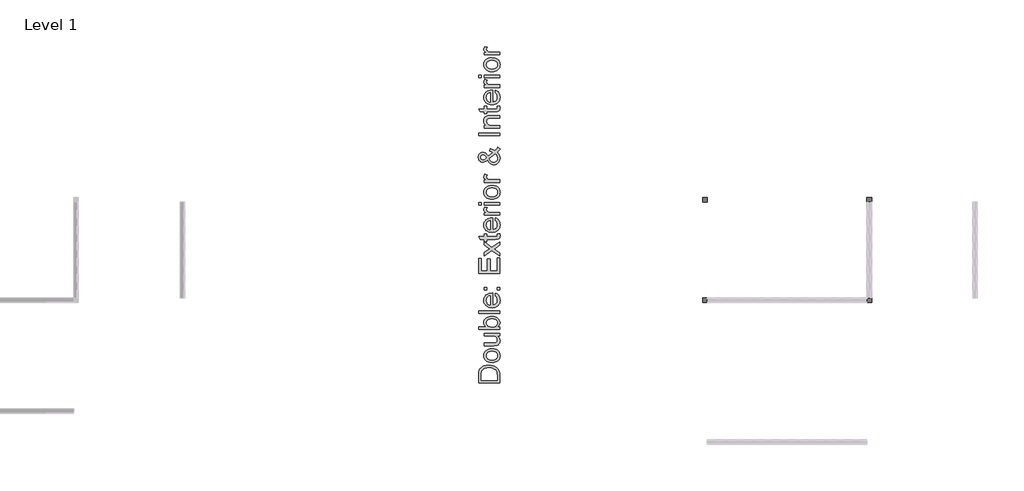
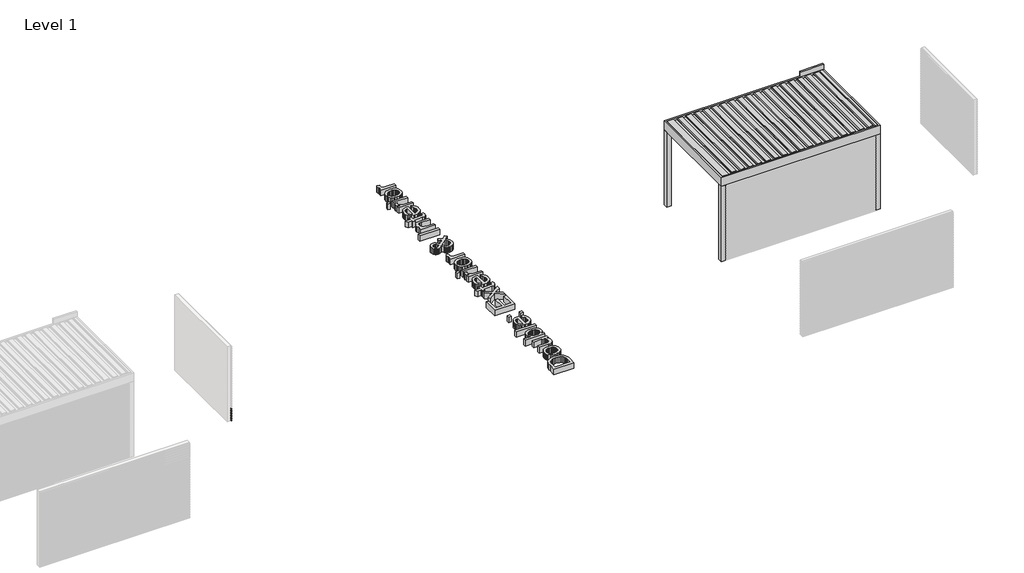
# One storey, part 42 of 47: 35 proxies.
"""IFC4 building model written with IfcOpenShell, lengths in millimetres."""

from ifc_helpers import new_model, si_unit, frame, origin, origin_with_axes, place, context, project, spatial, polyline, outline, extrude, transform, mapped, element, save
from components import generic_models_6c472f40

model = new_model("IFC4")

# Units and contexts
model_context = context("Model", 3, world=origin())
ifc_project = project(units=[si_unit("LENGTHUNIT", "METRE", prefix="MILLI")], contexts=[model_context])

# Site, building, storey
site = spatial("IfcSite", under=ifc_project)
building = spatial("IfcBuilding", under=site)
storey = spatial("IfcBuildingStorey", under=building, Name="Level 1", Elevation=0.0)

# Proxies
placement = place(None, origin())
element("IfcBuildingElementProxy", 1, Name="Wall Sweeps", at=placement, inside=storey, context=model_context, shape_type="SweptSolid", body=[
    extrude(outline(polyline([(309.0, 192892.4238385), (320.0562577, 192873.2738385), (333.0, 192873.2738385), (333.0, 192872.0238385), (319.3345698, 192872.0238385), (308.2782281, 192891.1738385), (296.2216933, 192891.1738385), (295.5, 192892.4238385), (309.0, 192892.4238385)])), frame((0.0, 39632.1593685, 0.0), z_axis=(0.0, 1.0, 0.0), x_axis=(0.0, 0.0, 1.0)), (0.0, 0.0, 1.0), 2280.0),
])
element("IfcBuildingElementProxy", 2, Name="Wall Sweeps", at=placement, inside=storey, context=model_context, shape_type="SweptSolid", body=[
    extrude(outline(polyline([(275.7, 192892.4238385), (286.7562577, 192873.2738385), (299.7, 192873.2738385), (299.7, 192872.0238385), (286.0345698, 192872.0238385), (274.9782281, 192891.1738385), (262.9216933, 192891.1738385), (262.2, 192892.4238385), (275.7, 192892.4238385)])), frame((0.0, 39632.1593685, 0.0), z_axis=(0.0, 1.0, 0.0), x_axis=(0.0, 0.0, 1.0)), (0.0, 0.0, 1.0), 2280.0),
])
element("IfcBuildingElementProxy", 3, Name="Wall Sweeps", at=placement, inside=storey, context=model_context, shape_type="SweptSolid", body=[
    extrude(outline(polyline([(242.4, 192892.4238385), (253.4562577, 192873.2738385), (266.4, 192873.2738385), (266.4, 192872.0238385), (252.7345698, 192872.0238385), (241.6782281, 192891.1738385), (229.6216933, 192891.1738385), (228.9, 192892.4238385), (242.4, 192892.4238385)])), frame((0.0, 39632.1593685, 0.0), z_axis=(0.0, 1.0, 0.0), x_axis=(0.0, 0.0, 1.0)), (0.0, 0.0, 1.0), 2280.0),
])
element("IfcBuildingElementProxy", 4, Name="Wall Sweeps", at=placement, inside=storey, context=model_context, shape_type="SweptSolid", body=[
    extrude(outline(polyline([(209.1, 192892.4238385), (220.1562577, 192873.2738385), (233.1, 192873.2738385), (233.1, 192872.0238385), (219.4345698, 192872.0238385), (208.3782281, 192891.1738385), (196.3216933, 192891.1738385), (195.6, 192892.4238385), (209.1, 192892.4238385)])), frame((0.0, 39632.1593685, 0.0), z_axis=(0.0, 1.0, 0.0), x_axis=(0.0, 0.0, 1.0)), (0.0, 0.0, 1.0), 2280.0),
])
element("IfcBuildingElementProxy", 5, Name="Wall Sweeps", at=placement, inside=storey, context=model_context, shape_type="SweptSolid", body=[
    extrude(outline(polyline([(175.8, 192892.4238385), (186.8562577, 192873.2738385), (199.8, 192873.2738385), (199.8, 192872.0238385), (186.1345698, 192872.0238385), (175.0782281, 192891.1738385), (163.0216933, 192891.1738385), (162.3, 192892.4238385), (175.8, 192892.4238385)])), frame((0.0, 39632.1593685, 0.0), z_axis=(0.0, 1.0, 0.0), x_axis=(0.0, 0.0, 1.0)), (0.0, 0.0, 1.0), 2280.0),
])
element("IfcBuildingElementProxy", 6, Name="Wall Sweeps", at=placement, inside=storey, context=model_context, shape_type="SweptSolid", body=[
    extrude(outline(polyline([(142.5, 192892.4238385), (153.5562577, 192873.2738385), (166.5, 192873.2738385), (166.5, 192872.0238385), (152.8345698, 192872.0238385), (141.7782281, 192891.1738385), (129.7216933, 192891.1738385), (129.0, 192892.4238385), (142.5, 192892.4238385)])), frame((0.0, 39632.1593685, 0.0), z_axis=(0.0, 1.0, 0.0), x_axis=(0.0, 0.0, 1.0)), (0.0, 0.0, 1.0), 2280.0),
])
element("IfcBuildingElementProxy", 7, Name="Wall Sweeps", at=placement, inside=storey, context=model_context, shape_type="SweptSolid", body=[
    extrude(outline(polyline([(109.2, 192892.4238385), (120.2562577, 192873.2738385), (133.2, 192873.2738385), (133.2, 192872.0238385), (119.5345698, 192872.0238385), (108.4782281, 192891.1738385), (96.4216933, 192891.1738385), (95.7, 192892.4238385), (109.2, 192892.4238385)])), frame((0.0, 39632.1593685, 0.0), z_axis=(0.0, 1.0, 0.0), x_axis=(0.0, 0.0, 1.0)), (0.0, 0.0, 1.0), 2280.0),
])
element("IfcBuildingElementProxy", 8, Name="Wall Sweeps", at=placement, inside=storey, context=model_context, shape_type="SweptSolid", body=[
    extrude(outline(polyline([(75.9, 192892.4238385), (86.9562577, 192873.2738385), (99.9, 192873.2738385), (99.9, 192872.0238385), (86.2345698, 192872.0238385), (75.1782281, 192891.1738385), (63.1216933, 192891.1738385), (62.4, 192892.4238385), (75.9, 192892.4238385)])), frame((0.0, 39632.1593685, 0.0), z_axis=(0.0, 1.0, 0.0), x_axis=(0.0, 0.0, 1.0)), (0.0, 0.0, 1.0), 2280.0),
])
element("IfcBuildingElementProxy", 9, Name="Wall Sweeps", at=placement, inside=storey, context=model_context, shape_type="SweptSolid", body=[
    extrude(outline(polyline([(42.6, 192892.4238385), (53.6562577, 192873.2738385), (66.6, 192873.2738385), (66.6, 192872.0238385), (52.9345698, 192872.0238385), (41.8782281, 192891.1738385), (29.8216933, 192891.1738385), (29.1, 192892.4238385), (42.6, 192892.4238385)])), frame((0.0, 39632.1593685, 0.0), z_axis=(0.0, 1.0, 0.0), x_axis=(0.0, 0.0, 1.0)), (0.0, 0.0, 1.0), 2280.0),
])
element("IfcBuildingElementProxy", 10, Name="Wall Sweeps", at=placement, inside=storey, context=model_context, shape_type="SweptSolid", body=[
    extrude(outline(polyline([(9.3, 192892.4238385), (20.3562577, 192873.2738385), (33.3, 192873.2738385), (33.3, 192872.0238385), (19.6345698, 192872.0238385), (8.5782281, 192891.1738385), (-3.4783067, 192891.1738385), (-4.2, 192892.4238385), (9.3, 192892.4238385)])), frame((0.0, 39632.1593685, 0.0), z_axis=(0.0, 1.0, 0.0), x_axis=(0.0, 0.0, 1.0)), (0.0, 0.0, 1.0), 2280.0),
])
element("IfcBuildingElementProxy", 11, Name="Wall Sweeps", at=placement, inside=storey, context=model_context, shape_type="SweptSolid", body=[
    extrude(outline(polyline([(309.3, 209062.4238385), (295.8, 209062.4238385), (296.5216933, 209063.6738385), (308.5782281, 209063.6738385), (319.6345698, 209082.8238385), (333.3, 209082.8238385), (333.3, 209081.5738385), (320.3562577, 209081.5738385), (309.3, 209062.4238385)])), frame((0.0, 39632.1593685, 0.0), z_axis=(0.0, 1.0, 0.0), x_axis=(0.0, 0.0, 1.0)), (0.0, 0.0, 1.0), 2280.0),
])
element("IfcBuildingElementProxy", 12, Name="Wall Sweeps", at=placement, inside=storey, context=model_context, shape_type="SweptSolid", body=[
    extrude(outline(polyline([(741.9, 209172.4238385), (752.9562577, 209153.2738385), (765.9, 209153.2738385), (765.9, 209152.0238385), (752.2345698, 209152.0238385), (741.1782281, 209171.1738385), (729.1216933, 209171.1738385), (728.4, 209172.4238385), (741.9, 209172.4238385)])), frame((0.0, 39632.1593685, 0.0), z_axis=(0.0, 1.0, 0.0), x_axis=(0.0, 0.0, 1.0)), (0.0, 0.0, 1.0), 2280.0),
])
element("IfcBuildingElementProxy", 13, Name="Wall Sweeps", at=placement, inside=storey, context=model_context, shape_type="SweptSolid", body=[
    extrude(outline(polyline([(808.5, 209172.4238385), (819.5562577, 209153.2738385), (832.5, 209153.2738385), (832.5, 209152.0238385), (818.8345698, 209152.0238385), (807.7782281, 209171.1738385), (795.7216933, 209171.1738385), (795.0, 209172.4238385), (808.5, 209172.4238385)])), frame((0.0, 39632.1593685, 0.0), z_axis=(0.0, 1.0, 0.0), x_axis=(0.0, 0.0, 1.0)), (0.0, 0.0, 1.0), 2280.0),
])
element("IfcBuildingElementProxy", 14, Name="Wall Sweeps", at=placement, inside=storey, context=model_context, shape_type="SweptSolid", body=[
    extrude(outline(polyline([(875.1, 209172.4238385), (886.1562577, 209153.2738385), (899.1, 209153.2738385), (899.1, 209152.0238385), (885.4345698, 209152.0238385), (874.3782281, 209171.1738385), (862.3216933, 209171.1738385), (861.6, 209172.4238385), (875.1, 209172.4238385)])), frame((0.0, 39632.1593685, 0.0), z_axis=(0.0, 1.0, 0.0), x_axis=(0.0, 0.0, 1.0)), (0.0, 0.0, 1.0), 2280.0),
])
element("IfcBuildingElementProxy", 15, Name="Wall Sweeps", at=placement, inside=storey, context=model_context, shape_type="SweptSolid", body=[
    extrude(outline(polyline([(1075.9, 209062.4238385), (1062.4, 209062.4238385), (1063.1216933, 209063.6738385), (1075.1782281, 209063.6738385), (1086.2345698, 209082.8238385), (1099.9, 209082.8238385), (1099.9, 209081.5738385), (1086.9562577, 209081.5738385), (1075.9, 209062.4238385)])), frame((0.0, 39632.1593685, 0.0), z_axis=(0.0, 1.0, 0.0), x_axis=(0.0, 0.0, 1.0)), (0.0, 0.0, 1.0), 2280.0),
])
element("IfcBuildingElementProxy", 16, Name="Wall Sweeps", at=placement, inside=storey, context=model_context, shape_type="SweptSolid", body=[
    extrude(outline(polyline([(1409.2, 209062.4238385), (1395.7, 209062.4238385), (1396.4216933, 209063.6738385), (1408.4782281, 209063.6738385), (1419.5345698, 209082.8238385), (1433.2, 209082.8238385), (1433.2, 209081.5738385), (1420.2562577, 209081.5738385), (1409.2, 209062.4238385)])), frame((0.0, 39632.1593685, 0.0), z_axis=(0.0, 1.0, 0.0), x_axis=(0.0, 0.0, 1.0)), (0.0, 0.0, 1.0), 2280.0),
])
element("IfcBuildingElementProxy", 17, Name="Wall Sweeps", at=placement, inside=storey, context=model_context, shape_type="SweptSolid", body=[
    extrude(outline(polyline([(1641.0, 209172.4238385), (1652.0562577, 209153.2738385), (1665.0, 209153.2738385), (1665.0, 209152.0238385), (1651.3345698, 209152.0238385), (1640.2782281, 209171.1738385), (1628.2216933, 209171.1738385), (1627.5, 209172.4238385), (1641.0, 209172.4238385)])), frame((0.0, 39632.1593685, 0.0), z_axis=(0.0, 1.0, 0.0), x_axis=(0.0, 0.0, 1.0)), (0.0, 0.0, 1.0), 2280.0),
])
element("IfcBuildingElementProxy", 18, Name="Wall Sweeps", at=placement, inside=storey, context=model_context, shape_type="SweptSolid", body=[
    extrude(outline(polyline([(142.5, 209172.4238385), (153.5562577, 209153.2738385), (166.5, 209153.2738385), (166.5, 209152.0238385), (152.8345698, 209152.0238385), (141.7782281, 209171.1738385), (129.7216933, 209171.1738385), (129.0, 209172.4238385), (142.5, 209172.4238385)])), frame((0.0, 39632.1593685, 0.0), z_axis=(0.0, 1.0, 0.0), x_axis=(0.0, 0.0, 1.0)), (0.0, 0.0, 1.0), 2280.0),
])
element("IfcBuildingElementProxy", 19, Name="Wall Sweeps", at=placement, inside=storey, context=model_context, shape_type="SweptSolid", body=[
    extrude(outline(polyline([(1641.0, 209062.4238385), (1627.5, 209062.4238385), (1628.2216933, 209063.6738385), (1640.2782281, 209063.6738385), (1651.3345698, 209082.8238385), (1665.0, 209082.8238385), (1665.0, 209081.5738385), (1652.0562577, 209081.5738385), (1641.0, 209062.4238385)])), frame((0.0, 39632.1593685, 0.0), z_axis=(0.0, 1.0, 0.0), x_axis=(0.0, 0.0, 1.0)), (0.0, 0.0, 1.0), 2280.0),
])
element("IfcBuildingElementProxy", 20, Name="Wall Sweeps", at=placement, inside=storey, context=model_context, shape_type="SweptSolid", body=[
    extrude(outline(polyline([(1707.6, 209172.4238385), (1718.6562577, 209153.2738385), (1731.6, 209153.2738385), (1731.6, 209152.0238385), (1717.9345698, 209152.0238385), (1706.8782281, 209171.1738385), (1694.8216933, 209171.1738385), (1694.1, 209172.4238385), (1707.6, 209172.4238385)])), frame((0.0, 39632.1593685, 0.0), z_axis=(0.0, 1.0, 0.0), x_axis=(0.0, 0.0, 1.0)), (0.0, 0.0, 1.0), 2280.0),
])
element("IfcBuildingElementProxy", 21, Name="Wall Sweeps", at=placement, inside=storey, context=model_context, shape_type="SweptSolid", body=[
    extrude(outline(polyline([(209.3, 209062.4238385), (195.8, 209062.4238385), (196.5216933, 209063.6738385), (208.5782281, 209063.6738385), (219.6345698, 209082.8238385), (233.3, 209082.8238385), (233.3, 209081.5738385), (220.3562577, 209081.5738385), (209.3, 209062.4238385)])), frame((0.0, 39632.1593685, 0.0), z_axis=(0.0, 1.0, 0.0), x_axis=(0.0, 0.0, 1.0)), (0.0, 0.0, 1.0), 2280.0),
])
element("IfcBuildingElementProxy", 22, Name="Wall Sweeps", at=placement, inside=storey, context=model_context, shape_type="SweptSolid", body=[
    extrude(outline(polyline([(309.0, 209172.4238385), (320.0562577, 209153.2738385), (333.0, 209153.2738385), (333.0, 209152.0238385), (319.3345698, 209152.0238385), (308.2782281, 209171.1738385), (296.2216933, 209171.1738385), (295.5, 209172.4238385), (309.0, 209172.4238385)])), frame((0.0, 39632.1593685, 0.0), z_axis=(0.0, 1.0, 0.0), x_axis=(0.0, 0.0, 1.0)), (0.0, 0.0, 1.0), 2280.0),
])
element("IfcBuildingElementProxy", 23, Name="Wall Sweeps", at=placement, inside=storey, context=model_context, shape_type="SweptSolid", body=[
    extrude(outline(polyline([(9.3, 209172.4238385), (20.3562577, 209153.2738385), (33.3, 209153.2738385), (33.3, 209152.0238385), (19.6345698, 209152.0238385), (8.5782281, 209171.1738385), (-3.4783067, 209171.1738385), (-4.2, 209172.4238385), (9.3, 209172.4238385)])), frame((0.0, 39632.1593685, 0.0), z_axis=(0.0, 1.0, 0.0), x_axis=(0.0, 0.0, 1.0)), (0.0, 0.0, 1.0), 2280.0),
])
element("IfcBuildingElementProxy", 24, Name="Wall Sweeps", at=placement, inside=storey, context=model_context, shape_type="SweptSolid", body=[
    extrude(outline(polyline([(9.3, 209062.4238385), (-4.2, 209062.4238385), (-3.4783067, 209063.6738385), (8.5782281, 209063.6738385), (19.6345698, 209082.8238385), (33.3, 209082.8238385), (33.3, 209081.5738385), (20.3562577, 209081.5738385), (9.3, 209062.4238385)])), frame((0.0, 39632.1593685, 0.0), z_axis=(0.0, 1.0, 0.0), x_axis=(0.0, 0.0, 1.0)), (0.0, 0.0, 1.0), 2280.0),
])
element("IfcBuildingElementProxy", 25, Name="Wall Sweeps", at=placement, inside=storey, context=model_context, shape_type="SweptSolid", body=[
    extrude(outline(polyline([(342.3, 209172.4238385), (353.3562577, 209153.2738385), (366.3, 209153.2738385), (366.3, 209152.0238385), (352.6345698, 209152.0238385), (341.5782281, 209171.1738385), (329.5216933, 209171.1738385), (328.8, 209172.4238385), (342.3, 209172.4238385)])), frame((0.0, 39632.1593685, 0.0), z_axis=(0.0, 1.0, 0.0), x_axis=(0.0, 0.0, 1.0)), (0.0, 0.0, 1.0), 2280.0),
])
element("IfcBuildingElementProxy", 26, Name="Wall Sweeps", at=placement, inside=storey, context=model_context, shape_type="SweptSolid", body=[
    extrude(outline(polyline([(342.6, 209062.4238385), (329.1, 209062.4238385), (329.8216933, 209063.6738385), (341.8782281, 209063.6738385), (352.9345698, 209082.8238385), (366.6, 209082.8238385), (366.6, 209081.5738385), (353.6562577, 209081.5738385), (342.6, 209062.4238385)])), frame((0.0, 39632.1593685, 0.0), z_axis=(0.0, 1.0, 0.0), x_axis=(0.0, 0.0, 1.0)), (0.0, 0.0, 1.0), 2280.0),
])
element("IfcBuildingElementProxy", 27, Name="Wall Sweeps", at=placement, inside=storey, context=model_context, shape_type="SweptSolid", body=[
    extrude(outline(polyline([(375.6, 209172.4238385), (386.6562577, 209153.2738385), (399.6, 209153.2738385), (399.6, 209152.0238385), (385.9345698, 209152.0238385), (374.8782281, 209171.1738385), (362.8216933, 209171.1738385), (362.1, 209172.4238385), (375.6, 209172.4238385)])), frame((0.0, 39632.1593685, 0.0), z_axis=(0.0, 1.0, 0.0), x_axis=(0.0, 0.0, 1.0)), (0.0, 0.0, 1.0), 2280.0),
])
element("IfcBuildingElementProxy", 28, Name="Wall Sweeps", at=placement, inside=storey, context=model_context, shape_type="SweptSolid", body=[
    extrude(outline(polyline([(376.0, 209062.4238385), (362.5, 209062.4238385), (363.2216933, 209063.6738385), (375.2782281, 209063.6738385), (386.3345698, 209082.8238385), (400.0, 209082.8238385), (400.0, 209081.5738385), (387.0562577, 209081.5738385), (376.0, 209062.4238385)])), frame((0.0, 39632.1593685, 0.0), z_axis=(0.0, 1.0, 0.0), x_axis=(0.0, 0.0, 1.0)), (0.0, 0.0, 1.0), 2280.0),
])
element("IfcBuildingElementProxy", 29, Name="Wall Sweeps", at=placement, inside=storey, context=model_context, shape_type="SweptSolid", body=[
    extrude(outline(polyline([(408.9, 209172.4238385), (419.9562577, 209153.2738385), (432.9, 209153.2738385), (432.9, 209152.0238385), (419.2345698, 209152.0238385), (408.1782281, 209171.1738385), (396.1216933, 209171.1738385), (395.4, 209172.4238385), (408.9, 209172.4238385)])), frame((0.0, 39632.1593685, 0.0), z_axis=(0.0, 1.0, 0.0), x_axis=(0.0, 0.0, 1.0)), (0.0, 0.0, 1.0), 2280.0),
])
element("IfcBuildingElementProxy", 30, Name="Wall Sweeps", at=placement, inside=storey, context=model_context, shape_type="SweptSolid", body=[
    extrude(outline(polyline([(409.3, 209062.4238385), (395.8, 209062.4238385), (396.5216933, 209063.6738385), (408.5782281, 209063.6738385), (419.6345698, 209082.8238385), (433.3, 209082.8238385), (433.3, 209081.5738385), (420.3562577, 209081.5738385), (409.3, 209062.4238385)])), frame((0.0, 39632.1593685, 0.0), z_axis=(0.0, 1.0, 0.0), x_axis=(0.0, 0.0, 1.0)), (0.0, 0.0, 1.0), 2280.0),
])
element("IfcBuildingElementProxy", 31, Name="Wall Sweeps", at=placement, inside=storey, context=model_context, shape_type="SweptSolid", body=[
    extrude(outline(polyline([(442.2, 209172.4238385), (453.2562577, 209153.2738385), (466.2, 209153.2738385), (466.2, 209152.0238385), (452.5345698, 209152.0238385), (441.4782281, 209171.1738385), (429.4216933, 209171.1738385), (428.7, 209172.4238385), (442.2, 209172.4238385)])), frame((0.0, 39632.1593685, 0.0), z_axis=(0.0, 1.0, 0.0), x_axis=(0.0, 0.0, 1.0)), (0.0, 0.0, 1.0), 2280.0),
])
element("IfcBuildingElementProxy", 32, Name="Wall Sweeps", at=placement, inside=storey, context=model_context, shape_type="SweptSolid", body=[
    extrude(outline(polyline([(442.6, 209062.4238385), (429.1, 209062.4238385), (429.8216933, 209063.6738385), (441.8782281, 209063.6738385), (452.9345698, 209082.8238385), (466.6, 209082.8238385), (466.6, 209081.5738385), (453.6562577, 209081.5738385), (442.6, 209062.4238385)])), frame((0.0, 39632.1593685, 0.0), z_axis=(0.0, 1.0, 0.0), x_axis=(0.0, 0.0, 1.0)), (0.0, 0.0, 1.0), 2280.0),
])
element("IfcBuildingElementProxy", 33, Name="Wall Sweeps", at=placement, inside=storey, context=model_context, shape_type="SweptSolid", body=[
    extrude(outline(polyline([(475.5, 209172.4238385), (486.5562577, 209153.2738385), (499.5, 209153.2738385), (499.5, 209152.0238385), (485.8345698, 209152.0238385), (474.7782281, 209171.1738385), (462.7216933, 209171.1738385), (462.0, 209172.4238385), (475.5, 209172.4238385)])), frame((0.0, 39632.1593685, 0.0), z_axis=(0.0, 1.0, 0.0), x_axis=(0.0, 0.0, 1.0)), (0.0, 0.0, 1.0), 2280.0),
])
generic_models_shape = generic_models_6c472f40(model_context)
element("IfcBuildingElementProxy", 34, Name="Renson_Algarve_Single : Algarve - Single", ObjectType="Renson_Algarve_Single : Algarve - Single", at=placement, inside=storey, context=model_context, shape_type="MappedRepresentation", body=[
    mapped(generic_models_shape, transform((207172.4238385, 40772.1593685, 0.0), x_axis=(1.0, 0.0, 0.0), y_axis=(0.0, 1.0, 0.0), z_axis=(0.0, 0.0, 1.0))),
])
element("IfcBuildingElementProxy", 35, Name="500mm Arial", ObjectType="500mm Arial", at=placement, inside=storey, context=model_context, shape_type="SweptSolid", body=[
    extrude(outline(polyline([(200356.6435082, 37620.2365292), (199854.3619574, 37620.2365292), (199854.3619574, 37793.5089489), (199856.1707106, 37845.2883397), (199861.59697, 37883.1495284), (199875.545829, 37923.1873522), (199897.5267782, 37956.9711821), (199915.4916823, 37975.5875439), (199935.7865057, 37991.7053738), (199958.4112484, 38005.3246718), (199983.3659104, 38016.445438), (200039.3452873, 38031.2526883), (200102.8049315, 38036.1884384), (200156.7149722, 38032.8468436), (200204.1564212, 38022.8220592), (200244.5467986, 38007.5549564), (200277.3036245, 37988.4864064), (200303.1626631, 37966.536114), (200322.8596783, 37942.6237843), (200337.4676592, 37915.1705904), (200348.059595, 37882.5977054), (200354.4975299, 37844.8438157), (200356.6435082, 37801.8476075), (200356.6435082, 37620.2365292)]), holes=[polyline([(200293.8583143, 37683.021723), (200293.8583143, 37794.1220856), (200291.5897087, 37840.0766781), (200284.7838918, 37874.9334972), (200273.8394024, 37901.2370598), (200259.1547795, 37921.5318832), (200231.9774971, 37943.3442199), (200196.7987813, 37959.7302971), (200153.4653479, 37969.9850077), (200101.8239128, 37973.4032446), (200065.3729385, 37971.7286151), (200033.3978617, 37966.7047266), (200005.8986826, 37958.3315791), (199982.8754011, 37946.6091726), (199963.806851, 37932.4878689), (199948.1718662, 37916.9180299), (199935.9704467, 37899.8996555), (199927.2025925, 37881.4327458), (199919.6610116, 37845.3189966), (199917.1471513, 37792.4053029), (199917.1471513, 37683.021723), (200293.8583143, 37683.021723)])]), origin_with_axes(), (0.0, 0.0, 1.0), 150.0),
    extrude(outline(polyline([(200172.2120013, 38098.9736322), (200124.4409913, 38102.3688765), (200083.2765289, 38112.5546092), (200048.718614, 38129.5308305), (200020.7672466, 38153.2975402), (200002.9019772, 38177.2251983), (199990.1410705, 38203.6360599), (199982.4845265, 38232.5301249), (199979.9323451, 38263.9073934), (199983.0401816, 38298.5457825), (199992.3636909, 38329.8655695), (200007.9028731, 38357.8667542), (200029.6577281, 38382.5493369), (200056.8924921, 38402.6947082), (200088.8714009, 38417.0842592), (200125.5944547, 38425.7179897), (200167.0616533, 38428.5958999), (200230.4906407, 38423.5068657), (200256.525956, 38417.1455728), (200278.7751525, 38408.2397629), (200297.9931547, 38396.9005668), (200314.934887, 38383.2391156), (200329.6003494, 38367.2554093), (200341.989542, 38348.949448), (200358.8661286, 38308.2218454), (200364.4916574, 38263.9073934), (200361.3953173, 38228.7631666), (200352.1062969, 38197.1521397), (200336.6245963, 38169.0743128), (200314.9502154, 38144.529686), (200287.4510362, 38124.5989125), (200254.4949408, 38110.3626457), (200216.0819292, 38101.8208856), (200172.2120013, 38098.9736322)]), holes=[polyline([(200172.0893739, 38161.7588261), (200202.5431053, 38163.5752434), (200228.9118138, 38169.0244955), (200251.1954992, 38178.1065822), (200269.3941617, 38190.8215037), (200283.5307937, 38206.2878759), (200293.6283881, 38223.6243149), (200299.6869447, 38242.8308208), (200301.7064636, 38263.9073934), (200299.6754484, 38284.8766671), (200293.5824028, 38304.0065309), (200283.4273269, 38321.2969847), (200269.2102207, 38336.7480285), (200250.8314493, 38349.4629499), (200228.1913782, 38358.5450367), (200201.2900073, 38363.9942887), (200170.1273366, 38365.8107061), (200140.6392954, 38363.9827924), (200114.9603658, 38358.4990514), (200093.0905476, 38349.3594831), (200075.0298409, 38336.5640875), (200060.8932088, 38321.0555621), (200050.7956144, 38303.7766046), (200044.7370578, 38284.7272151), (200042.717539, 38263.9073934), (200044.7293936, 38242.8308208), (200050.7649576, 38223.6243149), (200060.8242309, 38206.2878759), (200074.9072135, 38190.8215037), (200093.0522265, 38178.1065822), (200115.2975909, 38169.0244955), (200141.6433067, 38163.5752434), (200172.0893739, 38161.7588261)])]), origin_with_axes(), (0.0, 0.0, 1.0), 150.0),
    extrude(outline(polyline([(200356.6435082, 38734.6737199), (200293.2451777, 38734.6737199), (200324.4155126, 38711.9570067), (200346.6800375, 38685.5001599), (200360.0387524, 38655.3031794), (200364.4916574, 38621.3660654), (200361.3646604, 38590.7858745), (200351.9836696, 38562.3210052), (200337.8815264, 38538.4393323), (200320.5910726, 38521.608731), (200299.5911421, 38510.2810313), (200274.3605686, 38502.9080629), (200215.9899587, 38499.229243), (199987.7804943, 38499.229243), (199987.7804943, 38562.0144368), (200186.4367717, 38562.0144368), (200250.4482389, 38565.8158841), (200271.800723, 38574.9669488), (200288.0335161, 38590.6479188), (200298.2882267, 38611.8164619), (200301.7064636, 38637.4302458), (200298.2115846, 38664.5155577), (200287.7269477, 38689.8534302), (200271.2182432, 38710.7460618), (200249.6511612, 38724.4956514), (200220.1133027, 38732.1292028), (200179.6922685, 38734.6737199), (199987.7804943, 38734.6737199), (199987.7804943, 38797.4589138), (200356.6435082, 38797.4589138), (200356.6435082, 38734.6737199)])), origin_with_axes(), (0.0, 0.0, 1.0), 150.0),
    extrude(outline(polyline([(200356.6435082, 38946.5737491), (200356.6435082, 38883.7885553), (199854.3619574, 38883.7885553), (199854.3619574, 38946.5737491), (200040.6328743, 38946.5737491), (200014.0763928, 38967.2211261), (199995.1074774, 38990.5356476), (199983.7261282, 39016.5173135), (199979.9323451, 39045.1661238), (199983.350582, 39077.5090826), (199993.6052926, 39108.073945), (200010.0526835, 39135.1132717), (200032.0489611, 39156.879623), (200059.3795277, 39173.9401506), (200091.8297853, 39186.8620056), (200128.0508334, 39195.0013948), (200166.6937713, 39197.7145245), (200211.2841348, 39194.9055922), (200250.5095526, 39186.4787952), (200284.3700245, 39172.4341336), (200312.8655507, 39152.7716074), (200335.4519724, 39129.1696782), (200351.5851307, 39103.3068075), (200361.2650257, 39075.1829954), (200364.4916574, 39044.7982418), (200360.3299923, 39015.2067339), (200347.8449971, 38988.9721491), (200327.0366718, 38966.0944875), (200297.9050163, 38946.5737491), (200356.6435082, 38946.5737491)]), holes=[polyline([(200169.6368273, 38946.5737491), (200221.9986979, 38950.8657057), (200241.8336688, 38956.2306515), (200257.4379968, 38963.7415756), (200276.805451, 38978.9550289), (200290.6393469, 38996.6363573), (200298.9396844, 39016.7855608), (200301.7064636, 39039.4026392), (200299.6677842, 39058.1799494), (200293.551746, 39075.6390158), (200283.3583491, 39091.7798383), (200269.0875933, 39106.602417), (200250.7777999, 39118.9954417), (200228.4672897, 39127.8476023), (200202.1560628, 39133.1588986), (200171.8441193, 39134.9293307), (200140.9573601, 39133.2317085), (200114.3932144, 39128.1388422), (200092.1516821, 39119.6507315), (200074.2327632, 39107.7673767), (200060.4448526, 39093.4774604), (200050.596345, 39077.7696657), (200044.6872405, 39060.6439924), (200042.717539, 39042.1004405), (200044.7562183, 39023.3231304), (200050.8722565, 39005.864064), (200061.0656535, 38989.7232415), (200075.3364092, 38974.9006628), (200093.4622617, 38962.507638), (200115.2209488, 38953.6554775), (200140.6124707, 38948.3441812), (200169.6368273, 38946.5737491)])]), origin_with_axes(), (0.0, 0.0, 1.0), 150.0),
    extrude(outline(polyline([(200356.6435082, 39268.3478676), (199854.3619574, 39268.3478676), (199854.3619574, 39331.1330614), (200356.6435082, 39331.1330614), (200356.6435082, 39268.3478676)])), origin_with_axes(), (0.0, 0.0, 1.0), 150.0),
    extrude(outline(polyline([(200246.7694189, 39683.5640128), (200254.6175682, 39745.1229333), (200279.2733261, 39735.6844609), (200301.0013564, 39722.9427147), (200319.8016592, 39706.8976948), (200335.6742344, 39687.5494011), (200348.281857, 39665.0971031), (200357.2873017, 39639.7400701), (200362.6905685, 39611.4783023), (200364.4916574, 39580.3117995), (200361.383821, 39541.354629), (200352.0603117, 39506.64343), (200336.5211295, 39476.1782022), (200314.7662744, 39449.9589459), (200287.4012189, 39428.874709), (200255.0314354, 39413.8145398), (200217.656924, 39404.7784383), (200175.2776846, 39401.7664045), (200131.4614061, 39404.8090952), (200092.8414608, 39413.9371672), (200059.4178487, 39429.1506205), (200031.1905698, 39450.4494552), (200008.7650965, 39476.5997337), (199992.7469013, 39506.3675185), (199983.1359842, 39539.7528095), (199979.9323451, 39576.7556069), (199983.1283199, 39612.5666198), (199992.7162444, 39644.9517317), (200008.6961186, 39673.9109425), (200031.0679424, 39699.4442523), (200059.2339077, 39720.2870665), (200092.5962061, 39735.174791), (200131.1548378, 39744.1074257), (200174.9098026, 39747.0849706), (200191.8323743, 39746.7170886), (200191.8323743, 39464.5515983), (200216.886671, 39468.1882651), (200238.8292992, 39475.4194456), (200257.6602588, 39486.2451397), (200273.3795499, 39500.6653475), (200285.7725746, 39517.8829913), (200294.6247352, 39537.1009935), (200299.9360315, 39558.319354), (200301.7064636, 39581.5380728), (200298.4261824, 39614.9540207), (200288.5853391, 39643.0969933), (200271.5707968, 39665.9669907), (200246.7694189, 39683.5640128)]), holes=[polyline([(200129.0471805, 39464.5515983), (200129.0471805, 39684.2997768), (200095.8764873, 39675.8078341), (200072.1480986, 39659.1611738), (200059.2722287, 39642.0393326), (200050.0751789, 39622.5569153), (200044.5569489, 39600.7139218), (200042.717539, 39576.5103522), (200048.5883225, 39534.1885943), (200055.9268018, 39515.7753341), (200066.200673, 39499.1938196), (200078.934755, 39485.2794495), (200093.6538669, 39474.8676226), (200110.3580087, 39467.9583389), (200129.0471805, 39464.5515983)])]), origin_with_axes(), (0.0, 0.0, 1.0), 150.0),
    extrude(outline(polyline([(200050.5656882, 39825.5664629), (199987.7804943, 39825.5664629), (199987.7804943, 39888.3516568), (200050.5656882, 39888.3516568), (200050.5656882, 39825.5664629)])), origin_with_axes(), (0.0, 0.0, 1.0), 150.0),
    extrude(outline(polyline([(200356.6435082, 39825.5664629), (200293.8583143, 39825.5664629), (200293.8583143, 39888.3516568), (200356.6435082, 39888.3516568), (200356.6435082, 39825.5664629)])), origin_with_axes(), (0.0, 0.0, 1.0), 150.0),
    extrude(outline(polyline([(200356.6435082, 40210.1257752), (199854.3619574, 40210.1257752), (199854.3619574, 40571.1406398), (199917.1471513, 40571.1406398), (199917.1471513, 40272.9109691), (200066.2619866, 40272.9109691), (200066.2619866, 40555.4443414), (200129.0471805, 40555.4443414), (200129.0471805, 40272.9109691), (200293.8583143, 40272.9109691), (200293.8583143, 40578.9887891), (200356.6435082, 40578.9887891), (200356.6435082, 40210.1257752)])), origin_with_axes(), (0.0, 0.0, 1.0), 150.0),
    extrude(outline(polyline([(200356.6435082, 40626.0776844), (200171.2309826, 40760.2319854), (199987.7804943, 40633.9258337), (199987.7804943, 40709.46427), (200076.0721732, 40770.4100539), (200117.765466, 40798.8595948), (200083.6750678, 40823.5076885), (199987.7804943, 40892.9147583), (199987.7804943, 40968.4531946), (200171.2309826, 40835.7704217), (200356.6435082, 40963.5481014), (200356.6435082, 40888.009665), (200245.1752636, 40811.122328), (200224.8191266, 40797.0201849), (200356.6435082, 40701.6161208), (200356.6435082, 40626.0776844)])), origin_with_axes(), (0.0, 0.0, 1.0), 150.0),
    extrude(outline(polyline([(200304.2816375, 41151.9036829), (200358.4829182, 41159.7518321), (200364.4916574, 41112.7855641), (200361.8858266, 41082.6498973), (200354.0683342, 41060.1784388), (200342.0201989, 41044.2981993), (200326.7224392, 41033.9361898), (200300.4495334, 41028.2340188), (200255.4759595, 41026.3332952), (200050.5656882, 41026.3332952), (200050.5656882, 40979.2443998), (199987.7804943, 40979.2443998), (199987.7804943, 41026.3332952), (199898.1399149, 41026.3332952), (199861.229088, 41089.118489), (199987.7804943, 41089.118489), (199987.7804943, 41151.9036829), (200050.5656882, 41151.9036829), (200050.5656882, 41089.118489), (200253.6365495, 41089.118489), (200286.0101651, 41092.429427), (200297.4758206, 41103.1593185), (200301.7064636, 41124.5577879), (200304.2816375, 41151.9036829)])), origin_with_axes(), (0.0, 0.0, 1.0), 150.0),
    extrude(outline(polyline([(200246.7694189, 41472.9420373), (200254.6175682, 41534.5009579), (200279.2733261, 41525.0624854), (200301.0013564, 41512.3207392), (200319.8016592, 41496.2757193), (200335.6742344, 41476.9274256), (200348.281857, 41454.4751276), (200357.2873017, 41429.1180947), (200362.6905685, 41400.8563268), (200364.4916574, 41369.689824), (200361.383821, 41330.7326536), (200352.0603117, 41296.0214545), (200336.5211295, 41265.5562268), (200314.7662744, 41239.3369704), (200287.4012189, 41218.2527336), (200255.0314354, 41203.1925644), (200217.656924, 41194.1564629), (200175.2776846, 41191.144429), (200131.4614061, 41194.1871197), (200092.8414608, 41203.3151917), (200059.4178487, 41218.5286451), (200031.1905698, 41239.8274797), (200008.7650965, 41265.9777582), (199992.7469013, 41295.745543), (199983.1359842, 41329.1308341), (199979.9323451, 41366.1336314), (199983.1283199, 41401.9446444), (199992.7162444, 41434.3297563), (200008.6961186, 41463.2889671), (200031.0679424, 41488.8222768), (200059.2339077, 41509.6650911), (200092.5962061, 41524.5528156), (200131.1548378, 41533.4854503), (200174.9098026, 41536.4629952), (200191.8323743, 41536.0951132), (200191.8323743, 41253.9296229), (200216.886671, 41257.5662897), (200238.8292992, 41264.7974702), (200257.6602588, 41275.6231643), (200273.3795499, 41290.0433721), (200285.7725746, 41307.2610159), (200294.6247352, 41326.479018), (200299.9360315, 41347.6973785), (200301.7064636, 41370.9160973), (200298.4261824, 41404.3320452), (200288.5853391, 41432.4750179), (200271.5707968, 41455.3450152), (200246.7694189, 41472.9420373)]), holes=[polyline([(200129.0471805, 41253.9296229), (200129.0471805, 41473.6778013), (200095.8764873, 41465.1858586), (200072.1480986, 41448.5391983), (200059.2722287, 41431.4173571), (200050.0751789, 41411.9349398), (200044.5569489, 41390.0919463), (200042.717539, 41365.8883767), (200048.5883225, 41323.5666189), (200055.9268018, 41305.1533586), (200066.200673, 41288.5718441), (200078.934755, 41274.657474), (200093.6538669, 41264.2456472), (200110.3580087, 41257.3363634), (200129.0471805, 41253.9296229)])]), origin_with_axes(), (0.0, 0.0, 1.0), 150.0),
    extrude(outline(polyline([(200356.6435082, 41599.248189), (199987.7804943, 41599.248189), (199987.7804943, 41654.1852336), (200042.349657, 41654.1852336), (200010.7118054, 41674.480057), (199992.072451, 41693.1807251), (199982.9673716, 41711.9427069), (199979.9323451, 41732.4214713), (199984.7761247, 41763.6914409), (199999.3074635, 41795.4519198), (200055.5934088, 41774.4826461), (200045.9365064, 41752.4097263), (200042.717539, 41730.3368066), (200045.8138791, 41711.5901533), (200055.1028995, 41694.8361941), (200069.8794929, 41681.3012024), (200089.4385523, 41672.2114514), (200124.5099692, 41664.5779), (200162.7696967, 41662.0333829), (200356.6435082, 41662.0333829), (200356.6435082, 41599.248189)])), origin_with_axes(), (0.0, 0.0, 1.0), 150.0),
    extrude(outline(polyline([(199917.1471513, 41834.6926659), (199854.3619574, 41834.6926659), (199854.3619574, 41897.4778598), (199917.1471513, 41897.4778598), (199917.1471513, 41834.6926659)])), origin_with_axes(), (0.0, 0.0, 1.0), 150.0),
    extrude(outline(polyline([(200356.6435082, 41834.6926659), (199987.7804943, 41834.6926659), (199987.7804943, 41897.4778598), (200356.6435082, 41897.4778598), (200356.6435082, 41834.6926659)])), origin_with_axes(), (0.0, 0.0, 1.0), 150.0),
    extrude(outline(polyline([(200172.2120013, 41975.9593521), (200124.4409913, 41979.3545963), (200083.2765289, 41989.5403291), (200048.718614, 42006.5165503), (200020.7672466, 42030.28326), (200002.9019772, 42054.2109181), (199990.1410705, 42080.6217797), (199982.4845265, 42109.5158447), (199979.9323451, 42140.8931132), (199983.0401816, 42175.5315024), (199992.3636909, 42206.8512893), (200007.9028731, 42234.8524741), (200029.6577281, 42259.5350567), (200056.8924921, 42279.680428), (200088.8714009, 42294.069979), (200125.5944547, 42302.7037096), (200167.0616533, 42305.5816198), (200230.4906407, 42300.4925855), (200256.525956, 42294.1312927), (200278.7751525, 42285.2254827), (200297.9931547, 42273.8862866), (200314.934887, 42260.2248354), (200329.6003494, 42244.2411292), (200341.989542, 42225.9351678), (200358.8661286, 42185.2075653), (200364.4916574, 42140.8931132), (200361.3953173, 42105.7488864), (200352.1062969, 42074.1378595), (200336.6245963, 42046.0600327), (200314.9502154, 42021.5154058), (200287.4510362, 42001.5846323), (200254.4949408, 41987.3483655), (200216.0819292, 41978.8066054), (200172.2120013, 41975.9593521)]), holes=[polyline([(200172.0893739, 42038.7445459), (200202.5431053, 42040.5609633), (200228.9118138, 42046.0102153), (200251.1954992, 42055.0923021), (200269.3941617, 42067.8072235), (200283.5307937, 42083.2735958), (200293.6283881, 42100.6100348), (200299.6869447, 42119.8165406), (200301.7064636, 42140.8931132), (200299.6754484, 42161.862387), (200293.5824028, 42180.9922507), (200283.4273269, 42198.2827045), (200269.2102207, 42213.7337483), (200250.8314493, 42226.4486698), (200228.1913782, 42235.5307565), (200201.2900073, 42240.9800086), (200170.1273366, 42242.7964259), (200140.6392954, 42240.9685122), (200114.9603658, 42235.4847713), (200093.0905476, 42226.3452029), (200075.0298409, 42213.5498073), (200060.8932088, 42198.0412819), (200050.7956144, 42180.7623245), (200044.7370578, 42161.7129349), (200042.717539, 42140.8931132), (200044.7293936, 42119.8165406), (200050.7649576, 42100.6100348), (200060.8242309, 42083.2735958), (200074.9072135, 42067.8072235), (200093.0522265, 42055.0923021), (200115.2975909, 42046.0102153), (200141.6433067, 42040.5609633), (200172.0893739, 42038.7445459)])]), origin_with_axes(), (0.0, 0.0, 1.0), 150.0),
    extrude(outline(polyline([(200356.6435082, 42376.2149628), (199987.7804943, 42376.2149628), (199987.7804943, 42431.1520074), (200042.349657, 42431.1520074), (200010.7118054, 42451.4468308), (199992.072451, 42470.1474989), (199982.9673716, 42488.9094807), (199979.9323451, 42509.3882451), (199984.7761247, 42540.6582147), (199999.3074635, 42572.4186936), (200055.5934088, 42551.4494199), (200045.9365064, 42529.3765002), (200042.717539, 42507.3035804), (200045.8138791, 42488.5569271), (200055.1028995, 42471.8029679), (200069.8794929, 42458.2679762), (200089.4385523, 42449.1782252), (200124.5099692, 42441.5446738), (200162.7696967, 42439.0001567), (200356.6435082, 42439.0001567), (200356.6435082, 42376.2149628)])), origin_with_axes(), (0.0, 0.0, 1.0), 150.0),
    extrude(outline(polyline([(200294.5940783, 43095.9147727), (200325.1742692, 43064.0010096), (200347.0172626, 43029.3281316), (200360.1230587, 42991.8348249), (200364.4916574, 42951.459776), (200361.2573615, 42914.8248606), (200351.5544739, 42882.1753335), (200335.3829945, 42853.5111947), (200312.7429234, 42828.8324442), (200291.0302215, 42812.7912564), (200268.0759178, 42801.3332651), (200243.8800124, 42794.4584703), (200218.4425053, 42792.166872), (200195.8867405, 42794.0101141), (200174.4499501, 42799.5398404), (200154.132134, 42808.7560508), (200134.9332924, 42821.6587453), (200116.8610894, 42838.2249314), (200099.9231892, 42858.4316164), (200069.4502973, 42909.7664832), (200034.0109984, 42882.3746029), (200005.9293394, 42865.9272121), (199981.9556961, 42857.6958524), (199958.8404441, 42854.9520659), (199936.8978159, 42857.1133726), (199916.4420441, 42863.5972928), (199897.4731287, 42874.4038264), (199879.9910698, 42889.5329734), (199865.3447678, 42907.9347374), (199854.8831236, 42928.5591218), (199848.606137, 42951.4061265), (199846.5138082, 42976.4757516), (199848.5141665, 43000.4110739), (199854.5152416, 43022.0624622), (199864.5170333, 43041.4299164), (199878.5195418, 43058.5134366), (199895.3271504, 43072.4622955), (199913.7442428, 43082.4257662), (199933.7708189, 43088.4038487), (199955.4068788, 43090.3965428), (199990.3863251, 43084.4951025), (200022.7292839, 43066.7907814), (200052.435755, 43037.2835797), (200079.5057385, 42995.9734974), (200192.6907657, 43086.8403502), (200160.3478069, 43102.3220508), (200123.1610686, 43113.9409905), (200136.7727024, 43176.7261843), (200194.9287145, 43157.4123796), (200240.147543, 43132.3350903), (200281.7795222, 43168.0196438), (200316.1764887, 43208.1187813), (200364.4916574, 43161.0298859), (200335.1837251, 43128.9934955), (200294.5940783, 43095.9147727)]), holes=[polyline([(200039.8971103, 42964.2130185), (200019.0657924, 42997.0464865), (200000.9629325, 43015.8391251), (199983.350582, 43024.668293), (199963.990792, 43027.611349), (199942.055828, 43023.7332596), (199924.5661048, 43012.0989915), (199913.1157777, 42994.6399251), (199909.299002, 42973.287441), (199913.0851209, 42951.4751044), (199924.4434775, 42933.6174992), (199941.2587504, 42921.7073196), (199961.415618, 42917.7372597), (199984.4082427, 42923.1328623), (200009.9760414, 42939.4422974), (200039.8971103, 42964.2130185)]), polyline([(200249.3445929, 43053.8535979), (200109.4268074, 42941.7722167), (200136.7420456, 42898.9599496), (200162.0339327, 42872.7943427), (200186.1915171, 42859.4126351), (200210.1038468, 42854.9520659), (200239.7183474, 42861.0527756), (200270.436494, 42879.3549049), (200284.1171057, 42892.828583), (200293.8889712, 42908.8467782), (200299.7520905, 42927.4094905), (200301.7064636, 42948.51672), (200298.0583004, 42976.9202757), (200287.1138111, 43006.2128796), (200270.3751803, 43032.9916231), (200249.3445929, 43053.8535979)])]), origin_with_axes(), (0.0, 0.0, 1.0), 150.0),
    extrude(outline(polyline([(200356.6435082, 43482.8040043), (199854.3619574, 43482.8040043), (199854.3619574, 43545.5891982), (200356.6435082, 43545.5891982), (200356.6435082, 43482.8040043)])), origin_with_axes(), (0.0, 0.0, 1.0), 150.0),
    extrude(outline(polyline([(200356.6435082, 43663.3114366), (199987.7804943, 43663.3114366), (199987.7804943, 43726.0966305), (200039.2839737, 43726.0966305), (200013.3176362, 43747.9089671), (199994.7702523, 43774.1052308), (199983.6418219, 43804.6854217), (199979.9323451, 43839.6495396), (199982.9213863, 43870.5976125), (199991.88851, 43898.9398545), (200005.7147416, 43922.5762727), (200023.2811069, 43939.406874), (200044.5416205, 43950.8265443), (200069.4502973, 43958.2301694), (200130.1508265, 43961.5411074), (200356.6435082, 43961.5411074), (200356.6435082, 43898.7559135), (200138.6121124, 43898.7559135), (200106.1465263, 43896.9471604), (200083.0619311, 43891.520901), (200066.5225697, 43881.511445), (200053.6926851, 43865.9531023), (200045.4613255, 43846.0108325), (200042.717539, 43822.8495952), (200044.2580448, 43803.7848772), (200048.8795624, 43786.0767241), (200056.5820917, 43769.7251358), (200067.3656326, 43754.7301124), (200082.4564586, 43742.2029641), (200103.080843, 43733.255001), (200129.2387857, 43727.8862231), (200160.9302867, 43726.0966305), (200356.6435082, 43726.0966305), (200356.6435082, 43663.3114366)])), origin_with_axes(), (0.0, 0.0, 1.0), 150.0),
    extrude(outline(polyline([(200304.2816375, 44181.2892858), (200358.4829182, 44189.1374351), (200364.4916574, 44142.171167), (200361.8858266, 44112.0355002), (200354.0683342, 44089.5640417), (200342.0201989, 44073.6838022), (200326.7224392, 44063.3217927), (200300.4495334, 44057.6196218), (200255.4759595, 44055.7188981), (200050.5656882, 44055.7188981), (200050.5656882, 44008.6300028), (199987.7804943, 44008.6300028), (199987.7804943, 44055.7188981), (199898.1399149, 44055.7188981), (199861.229088, 44118.504092), (199987.7804943, 44118.504092), (199987.7804943, 44181.2892858), (200050.5656882, 44181.2892858), (200050.5656882, 44118.504092), (200253.6365495, 44118.504092), (200286.0101651, 44121.8150299), (200297.4758206, 44132.5449215), (200301.7064636, 44153.9433909), (200304.2816375, 44181.2892858)])), origin_with_axes(), (0.0, 0.0, 1.0), 150.0),
    extrude(outline(polyline([(200246.7694189, 44502.3276403), (200254.6175682, 44563.8865608), (200279.2733261, 44554.4480884), (200301.0013564, 44541.7063422), (200319.8016592, 44525.6613223), (200335.6742344, 44506.3130286), (200348.281857, 44483.8607306), (200357.2873017, 44458.5036976), (200362.6905685, 44430.2419298), (200364.4916574, 44399.075427), (200361.383821, 44360.1182565), (200352.0603117, 44325.4070574), (200336.5211295, 44294.9418297), (200314.7662744, 44268.7225734), (200287.4012189, 44247.6383365), (200255.0314354, 44232.5781673), (200217.656924, 44223.5420658), (200175.2776846, 44220.530032), (200131.4614061, 44223.5727227), (200092.8414608, 44232.7007947), (200059.4178487, 44247.914248), (200031.1905698, 44269.2130827), (200008.7650965, 44295.3633612), (199992.7469013, 44325.1311459), (199983.1359842, 44358.516437), (199979.9323451, 44395.5192344), (199983.1283199, 44431.3302473), (199992.7162444, 44463.7153592), (200008.6961186, 44492.67457), (200031.0679424, 44518.2078797), (200059.2339077, 44539.050694), (200092.5962061, 44553.9384185), (200131.1548378, 44562.8710532), (200174.9098026, 44565.8485981), (200191.8323743, 44565.4807161), (200191.8323743, 44283.3152258), (200216.886671, 44286.9518926), (200238.8292992, 44294.1830731), (200257.6602588, 44305.0087672), (200273.3795499, 44319.428975), (200285.7725746, 44336.6466188), (200294.6247352, 44355.864621), (200299.9360315, 44377.0829815), (200301.7064636, 44400.3017003), (200298.4261824, 44433.7176482), (200288.5853391, 44461.8606208), (200271.5707968, 44484.7306182), (200246.7694189, 44502.3276403)]), holes=[polyline([(200129.0471805, 44283.3152258), (200129.0471805, 44503.0634043), (200095.8764873, 44494.5714616), (200072.1480986, 44477.9248013), (200059.2722287, 44460.8029601), (200050.0751789, 44441.3205428), (200044.5569489, 44419.4775493), (200042.717539, 44395.2739797), (200048.5883225, 44352.9522218), (200055.9268018, 44334.5389616), (200066.200673, 44317.957447), (200078.934755, 44304.043077), (200093.6538669, 44293.6312501), (200110.3580087, 44286.7219664), (200129.0471805, 44283.3152258)])]), origin_with_axes(), (0.0, 0.0, 1.0), 150.0),
    extrude(outline(polyline([(200356.6435082, 44628.633792), (199987.7804943, 44628.633792), (199987.7804943, 44683.5708366), (200042.349657, 44683.5708366), (200010.7118054, 44703.86566), (199992.072451, 44722.5663281), (199982.9673716, 44741.3283098), (199979.9323451, 44761.8070742), (199984.7761247, 44793.0770438), (199999.3074635, 44824.8375227), (200055.5934088, 44803.868249), (200045.9365064, 44781.7953293), (200042.717539, 44759.7224096), (200045.8138791, 44740.9757562), (200055.1028995, 44724.221797), (200069.8794929, 44710.6868053), (200089.4385523, 44701.5970543), (200124.5099692, 44693.9635029), (200162.7696967, 44691.4189858), (200356.6435082, 44691.4189858), (200356.6435082, 44628.633792)])), origin_with_axes(), (0.0, 0.0, 1.0), 150.0),
    extrude(outline(polyline([(199917.1471513, 44864.0782689), (199854.3619574, 44864.0782689), (199854.3619574, 44926.8634627), (199917.1471513, 44926.8634627), (199917.1471513, 44864.0782689)])), origin_with_axes(), (0.0, 0.0, 1.0), 150.0),
    extrude(outline(polyline([(200356.6435082, 44864.0782689), (199987.7804943, 44864.0782689), (199987.7804943, 44926.8634627), (200356.6435082, 44926.8634627), (200356.6435082, 44864.0782689)])), origin_with_axes(), (0.0, 0.0, 1.0), 150.0),
    extrude(outline(polyline([(200172.2120013, 45005.344955), (200124.4409913, 45008.7401993), (200083.2765289, 45018.925932), (200048.718614, 45035.9021533), (200020.7672466, 45059.668863), (200002.9019772, 45083.5965211), (199990.1410705, 45110.0073827), (199982.4845265, 45138.9014477), (199979.9323451, 45170.2787162), (199983.0401816, 45204.9171053), (199992.3636909, 45236.2368923), (200007.9028731, 45264.238077), (200029.6577281, 45288.9206596), (200056.8924921, 45309.066031), (200088.8714009, 45323.4555819), (200125.5944547, 45332.0893125), (200167.0616533, 45334.9672227), (200230.4906407, 45329.8781884), (200256.525956, 45323.5168956), (200278.7751525, 45314.6110856), (200297.9931547, 45303.2718896), (200314.934887, 45289.6104384), (200329.6003494, 45273.6267321), (200341.989542, 45255.3207708), (200358.8661286, 45214.5931682), (200364.4916574, 45170.2787162), (200361.3953173, 45135.1344893), (200352.1062969, 45103.5234625), (200336.6245963, 45075.4456356), (200314.9502154, 45050.9010088), (200287.4510362, 45030.9702353), (200254.4949408, 45016.7339685), (200216.0819292, 45008.1922084), (200172.2120013, 45005.344955)]), holes=[polyline([(200172.0893739, 45068.1301489), (200202.5431053, 45069.9465662), (200228.9118138, 45075.3958183), (200251.1954992, 45084.477905), (200269.3941617, 45097.1928265), (200283.5307937, 45112.6591987), (200293.6283881, 45129.9956377), (200299.6869447, 45149.2021436), (200301.7064636, 45170.2787162), (200299.6754484, 45191.2479899), (200293.5824028, 45210.3778537), (200283.4273269, 45227.6683074), (200269.2102207, 45243.1193512), (200250.8314493, 45255.8342727), (200228.1913782, 45264.9163595), (200201.2900073, 45270.3656115), (200170.1273366, 45272.1820289), (200140.6392954, 45270.3541152), (200114.9603658, 45264.8703742), (200093.0905476, 45255.7308059), (200075.0298409, 45242.9354102), (200060.8932088, 45227.4268849), (200050.7956144, 45210.1479274), (200044.7370578, 45191.0985379), (200042.717539, 45170.2787162), (200044.7293936, 45149.2021436), (200050.7649576, 45129.9956377), (200060.8242309, 45112.6591987), (200074.9072135, 45097.1928265), (200093.0522265, 45084.477905), (200115.2975909, 45075.3958183), (200141.6433067, 45069.9465662), (200172.0893739, 45068.1301489)])]), origin_with_axes(), (0.0, 0.0, 1.0), 150.0),
    extrude(outline(polyline([(200356.6435082, 45405.6005658), (199987.7804943, 45405.6005658), (199987.7804943, 45460.5376104), (200042.349657, 45460.5376104), (200010.7118054, 45480.8324338), (199992.072451, 45499.5331019), (199982.9673716, 45518.2950836), (199979.9323451, 45538.773848), (199984.7761247, 45570.0438176), (199999.3074635, 45601.8042965), (200055.5934088, 45580.8350228), (200045.9365064, 45558.7621031), (200042.717539, 45536.6891834), (200045.8138791, 45517.9425301), (200055.1028995, 45501.1885709), (200069.8794929, 45487.6535791), (200089.4385523, 45478.5638282), (200124.5099692, 45470.9302768), (200162.7696967, 45468.3857596), (200356.6435082, 45468.3857596), (200356.6435082, 45405.6005658)])), origin_with_axes(), (0.0, 0.0, 1.0), 150.0),
])

save(model, "model.ifc")
